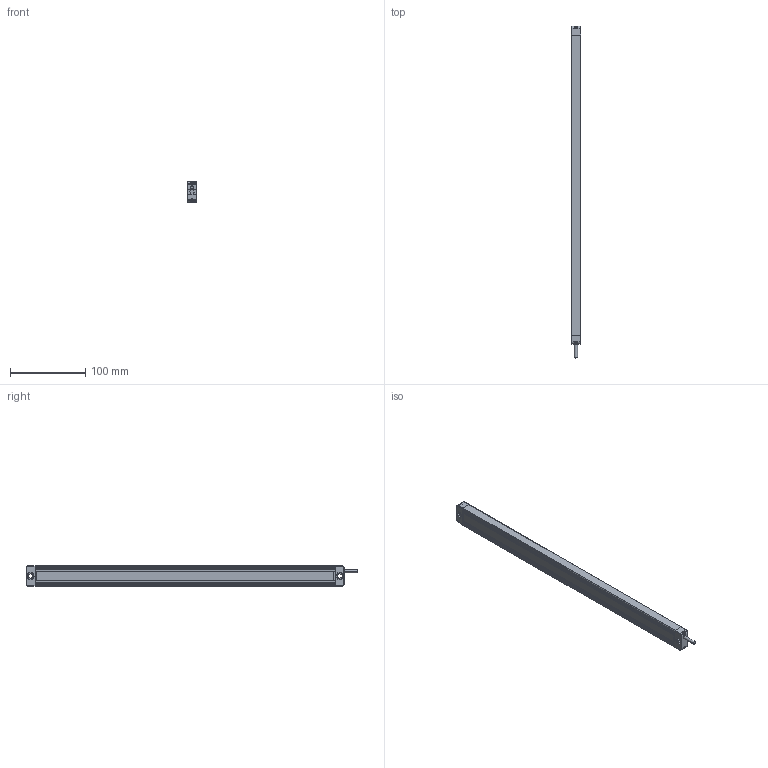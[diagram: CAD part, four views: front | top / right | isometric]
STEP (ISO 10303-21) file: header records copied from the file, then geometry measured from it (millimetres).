
FILE_DESCRIPTION((''),'2;1');
FILE_NAME('EB13-0320_ASM','2021-07-12T16:50:56',('18720616900'),(''),'CREO PARAMETRIC BY PTC INC, 2019010','CREO PARAMETRIC BY PTC INC, 2019010','');
FILE_SCHEMA(('CONFIG_CONTROL_DESIGN'));
Products named in the file (7): EB1300; 000; 0002; 0004; EB13-0320_ASM
Assembly tree (9 placements, depth 2):
  EB13-0320_ASM
    EB1300
    000
    0002
    000
    0004  x4
    000
Bounding box: 13 x 442.4 x 28 mm (x, y, z)
Volume: 158392.9 mm3; surface area: 56692.8 mm2
Topology: 9 solids, 27 shells, 1032 faces, 3520 edges, 2523 vertices
Faces by surface type: cylinder 544, plane 295, bspline 118, torus 40, sphere 31, cone 4
Entity records: 52594 total; most frequent: CARTESIAN_POINT 37957, ORIENTED_EDGE 3370, DIRECTION 2501, EDGE_CURVE 1685, VERTEX_POINT 1150, AXIS2_PLACEMENT_3D 849, VECTOR 803, LINE 803
